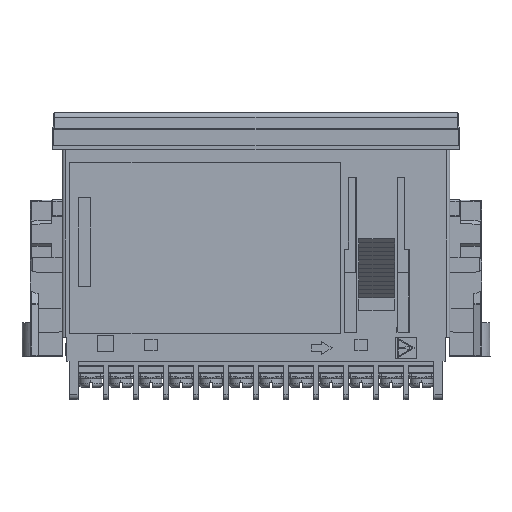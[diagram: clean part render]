
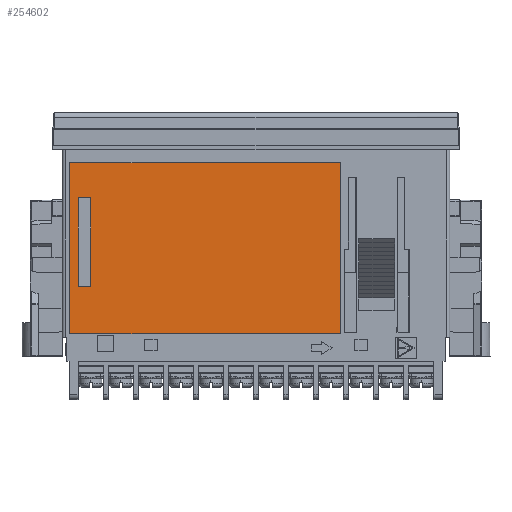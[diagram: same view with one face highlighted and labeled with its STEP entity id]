
A CAD part, front view. The second image highlights one B-rep face of the part: STEP entity #254602.
In plain terms, the highlighted planar face has unit normal (0, -1, 0).
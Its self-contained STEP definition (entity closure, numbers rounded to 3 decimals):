
#1204 = VERTEX_POINT ( 'NONE', #11613 ) ;
#6856 = EDGE_CURVE ( 'NONE', #166130, #97237, #240801, .T. ) ;
#9578 = CARTESIAN_POINT ( 'NONE',  ( 20., -22.3, -49.85 ) ) ;
#11613 = CARTESIAN_POINT ( 'NONE',  ( 20., -22.3, -9.35 ) ) ;
#14677 = CARTESIAN_POINT ( 'NONE',  ( -42.05, -22.3, -38.65 ) ) ;
#21238 = PLANE ( 'NONE',  #45843 ) ;
#26173 = EDGE_CURVE ( 'NONE', #154834, #166130, #258398, .T. ) ;
#29336 = EDGE_CURVE ( 'NONE', #272576, #154834, #170133, .T. ) ;
#42521 = DIRECTION ( 'NONE',  ( 0., 0., -1. ) ) ;
#45843 = AXIS2_PLACEMENT_3D ( 'NONE', #231894, #169080, #42521 ) ;
#47931 = CARTESIAN_POINT ( 'NONE',  ( 20., -22.3, -49.85 ) ) ;
#48362 = CARTESIAN_POINT ( 'NONE',  ( -44., -22.3, -49.85 ) ) ;
#59098 = EDGE_CURVE ( 'NONE', #245555, #165923, #123035, .T. ) ;
#66771 = ORIENTED_EDGE ( 'NONE', *, *, #6856, .F. ) ;
#68232 = CARTESIAN_POINT ( 'NONE',  ( 20., -22.3, -9.35 ) ) ;
#69410 = LINE ( 'NONE', #183517, #188456 ) ;
#70808 = VECTOR ( 'NONE', #89422, 1000. ) ;
#75942 = VECTOR ( 'NONE', #232812, 1000. ) ;
#82486 = ORIENTED_EDGE ( 'NONE', *, *, #138783, .F. ) ;
#89422 = DIRECTION ( 'NONE',  ( -1., 0., 0. ) ) ;
#90360 = DIRECTION ( 'NONE',  ( 1., 0., 0. ) ) ;
#97237 = VERTEX_POINT ( 'NONE', #233885 ) ;
#103779 = DIRECTION ( 'NONE',  ( -1., 0., 0. ) ) ;
#115824 = DIRECTION ( 'NONE',  ( 0., 0., 1. ) ) ;
#117730 = DIRECTION ( 'NONE',  ( 0., 0., -1. ) ) ;
#123035 = LINE ( 'NONE', #47931, #215643 ) ;
#127019 = LINE ( 'NONE', #68232, #70808 ) ;
#138757 = FACE_BOUND ( 'NONE', #215369, .T. ) ;
#138783 = EDGE_CURVE ( 'NONE', #97237, #272576, #245257, .T. ) ;
#145444 = CARTESIAN_POINT ( 'NONE',  ( -42.05, -22.3, -38.65 ) ) ;
#150887 = ORIENTED_EDGE ( 'NONE', *, *, #59098, .T. ) ;
#152583 = ORIENTED_EDGE ( 'NONE', *, *, #26173, .F. ) ;
#154834 = VERTEX_POINT ( 'NONE', #145444 ) ;
#156797 = ORIENTED_EDGE ( 'NONE', *, *, #29336, .F. ) ;
#163403 = DIRECTION ( 'NONE',  ( 1., 0., 0. ) ) ;
#165923 = VERTEX_POINT ( 'NONE', #9578 ) ;
#166130 = VERTEX_POINT ( 'NONE', #212820 ) ;
#169080 = DIRECTION ( 'NONE',  ( 0., -1., 0. ) ) ;
#170133 = LINE ( 'NONE', #265496, #213126 ) ;
#175018 = CARTESIAN_POINT ( 'NONE',  ( -44., -22.3, -9.35 ) ) ;
#180369 = CARTESIAN_POINT ( 'NONE',  ( -42.05, -22.3, -17.65 ) ) ;
#183517 = CARTESIAN_POINT ( 'NONE',  ( -44., -22.3, -9.35 ) ) ;
#184679 = VECTOR ( 'NONE', #115824, 1000. ) ;
#188456 = VECTOR ( 'NONE', #267501, 1000. ) ;
#189159 = VECTOR ( 'NONE', #103779, 1000. ) ;
#190834 = EDGE_CURVE ( 'NONE', #1204, #256258, #127019, .T. ) ;
#195018 = EDGE_LOOP ( 'NONE', ( #220254, #204608, #150887, #214591 ) ) ;
#204608 = ORIENTED_EDGE ( 'NONE', *, *, #209911, .T. ) ;
#209157 = CARTESIAN_POINT ( 'NONE',  ( -42.05, -22.3, -17.65 ) ) ;
#209911 = EDGE_CURVE ( 'NONE', #256258, #245555, #69410, .T. ) ;
#212820 = CARTESIAN_POINT ( 'NONE',  ( -39.05, -22.3, -38.65 ) ) ;
#213126 = VECTOR ( 'NONE', #117730, 1000. ) ;
#214591 = ORIENTED_EDGE ( 'NONE', *, *, #254662, .T. ) ;
#215369 = EDGE_LOOP ( 'NONE', ( #156797, #82486, #66771, #152583 ) ) ;
#215643 = VECTOR ( 'NONE', #90360, 1000. ) ;
#220254 = ORIENTED_EDGE ( 'NONE', *, *, #190834, .T. ) ;
#221250 = CARTESIAN_POINT ( 'NONE',  ( -39.05, -22.3, -38.65 ) ) ;
#231894 = CARTESIAN_POINT ( 'NONE',  ( -44., -22.3, -9.35 ) ) ;
#232812 = DIRECTION ( 'NONE',  ( 0., 0., 1. ) ) ;
#233885 = CARTESIAN_POINT ( 'NONE',  ( -39.05, -22.3, -17.65 ) ) ;
#237925 = FACE_OUTER_BOUND ( 'NONE', #195018, .T. ) ;
#240801 = LINE ( 'NONE', #221250, #184679 ) ;
#244492 = LINE ( 'NONE', #253119, #75942 ) ;
#245257 = LINE ( 'NONE', #209157, #189159 ) ;
#245555 = VERTEX_POINT ( 'NONE', #48362 ) ;
#251714 = VECTOR ( 'NONE', #163403, 1000. ) ;
#253119 = CARTESIAN_POINT ( 'NONE',  ( 20., -22.3, -9.35 ) ) ;
#254602 = ADVANCED_FACE ( 'NONE', ( #138757, #237925 ), #21238, .T. ) ;
#254662 = EDGE_CURVE ( 'NONE', #165923, #1204, #244492, .T. ) ;
#256258 = VERTEX_POINT ( 'NONE', #175018 ) ;
#258398 = LINE ( 'NONE', #14677, #251714 ) ;
#265496 = CARTESIAN_POINT ( 'NONE',  ( -42.05, -22.3, -38.65 ) ) ;
#267501 = DIRECTION ( 'NONE',  ( 0., 0., -1. ) ) ;
#272576 = VERTEX_POINT ( 'NONE', #180369 ) ;
